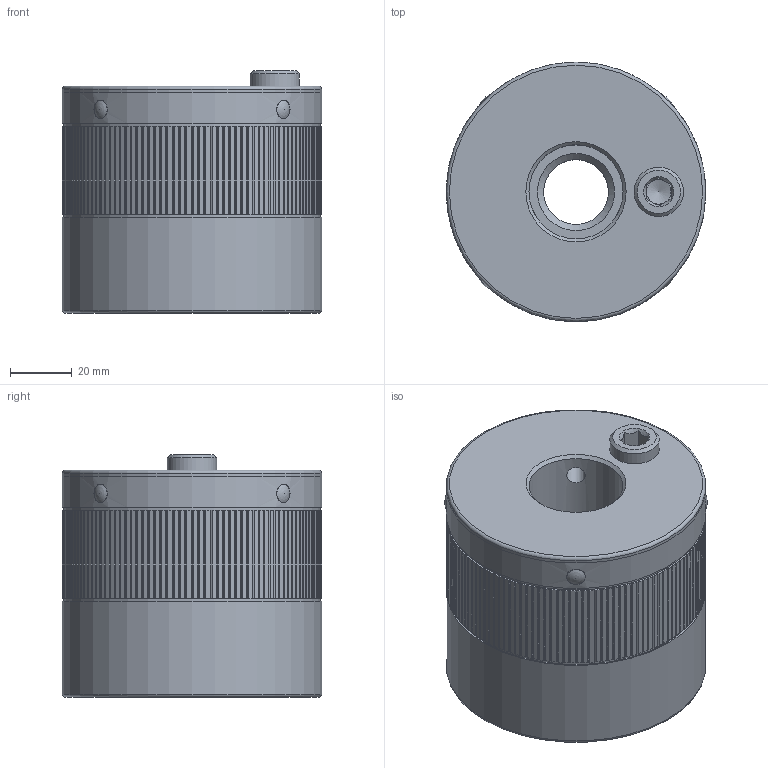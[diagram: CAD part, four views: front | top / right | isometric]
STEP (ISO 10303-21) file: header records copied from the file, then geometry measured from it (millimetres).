
FILE_DESCRIPTION(/* description */ ('Unknown','CAx-IF Rec.Pracs.---Representation and Presentation of Product Manufacturing Information (PMI)---4.0---2014-10-13','CAx-IF Rec.Pracs.---3D Tessellated Geometry---0.4---2014-09-14','2;1'),/* implementation_level */ '2;1');
FILE_NAME(/* name */ 'MDA 120_SW8_M24',/* time_stamp */ '2023-09-15T11:23:53+02:00',/* author */ ('Unknown'),/* organization */ ('Unknown'),/* preprocessor_version */ 'ST-DEVELOPER v18.102',/* originating_system */ 'Solid Edge',/* authorisation */ 'Unknown');
FILE_SCHEMA (('AP242_MANAGED_MODEL_BASED_3D_ENGINEERING_MIM_LF { 1 0 10303 442 1 1 4 }'));
Length unit declared in the file: millimetre
Products named in the file (7): 05933091; 43733046; 42231915; 46431916; KT100003; KT101191; 46331254
Assembly tree (9 placements, depth 2):
  05933091
    43733046
    42231915
    46431916
    KT100003  x4
    KT101191
    46331254
Bounding box: 84 x 84 x 78.5 mm (x, y, z)
Volume: 352789.9 mm3; surface area: 106518.7 mm2
Topology: 9 solids, 9 shells, 506 faces, 1424 edges, 939 vertices
Faces by surface type: plane 290, cylinder 167, cone 25, torus 10, sphere 8, bspline 6
Full cylindrical faces by diameter (mm): 1.6 x1, 6 x12, 8 x1, 16 x2, 16.5 x1, 21 x1, 30.5 x1, 48 x3, 66.2 x1, 71 x1, 74 x1, 76.5 x1, 76.9 x1, 77 x3, 83 x2, 84 x3
Entity records: 16338 total; most frequent: CARTESIAN_POINT 3316, DIRECTION 2606, ORIENTED_EDGE 2596, EDGE_CURVE 1298, LINE 918, VECTOR 918, VERTEX_POINT 900, AXIS2_PLACEMENT_3D 844
